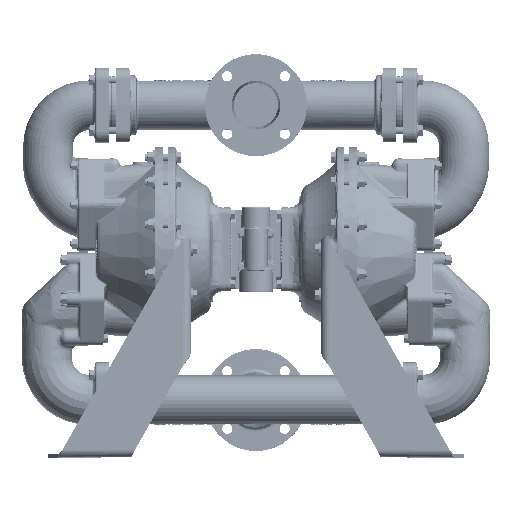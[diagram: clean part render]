
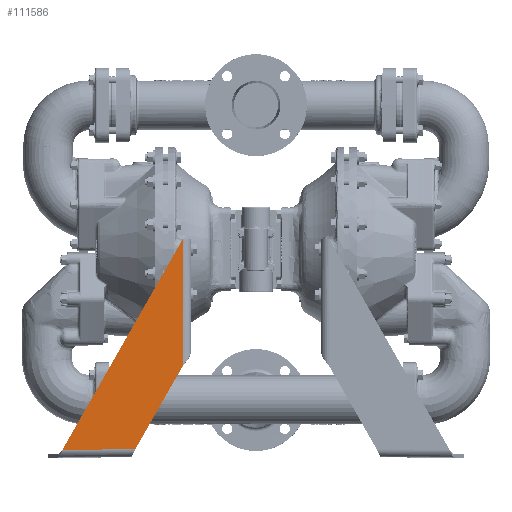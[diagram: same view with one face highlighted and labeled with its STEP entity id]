
A CAD part, top view. The second image highlights one B-rep face of the part: STEP entity #111586.
In plain terms, the highlighted planar face has unit normal (0, 0, 1).
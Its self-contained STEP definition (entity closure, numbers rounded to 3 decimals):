
#6896 = EDGE_CURVE ( 'NONE', #285897, #200924, #212812, .T. ) ;
#19207 = LINE ( 'NONE', #324046, #73141 ) ;
#22924 = CARTESIAN_POINT ( 'NONE',  ( -8.885, -14.703, 8.123 ) ) ;
#62573 = ORIENTED_EDGE ( 'NONE', *, *, #389751, .T. ) ;
#73141 = VECTOR ( 'NONE', #134163, 39.37 ) ;
#111586 = ADVANCED_FACE ( 'NONE', ( #457262 ), #112436, .T. ) ;
#112436 = PLANE ( 'NONE',  #412077 ) ;
#118084 = CARTESIAN_POINT ( 'NONE',  ( -5.376, -8.562, 8.123 ) ) ;
#125837 = EDGE_LOOP ( 'NONE', ( #464550, #219891, #309668, #62573 ) ) ;
#134163 = DIRECTION ( 'NONE',  ( 0., 1., 0. ) ) ;
#152397 = DIRECTION ( 'NONE',  ( 0.868, -0.496, 0. ) ) ;
#156948 = LINE ( 'NONE', #476568, #446456 ) ;
#171649 = CARTESIAN_POINT ( 'NONE',  ( -14.23, -14.744, 8.123 ) ) ;
#184223 = CARTESIAN_POINT ( 'NONE',  ( -14.23, -14.744, 8.123 ) ) ;
#194947 = DIRECTION ( 'NONE',  ( 1., 0.008, 0. ) ) ;
#200924 = VERTEX_POINT ( 'NONE', #118084 ) ;
#212812 = LINE ( 'NONE', #22924, #311487 ) ;
#219891 = ORIENTED_EDGE ( 'NONE', *, *, #293086, .T. ) ;
#247207 = VECTOR ( 'NONE', #194947, 39.37 ) ;
#254916 = CARTESIAN_POINT ( 'NONE',  ( -5.376, 0.75, 8.123 ) ) ;
#257486 = CARTESIAN_POINT ( 'NONE',  ( -15.274, -16.572, 8.123 ) ) ;
#285897 = VERTEX_POINT ( 'NONE', #319788 ) ;
#293086 = EDGE_CURVE ( 'NONE', #200924, #439769, #19207, .T. ) ;
#309668 = ORIENTED_EDGE ( 'NONE', *, *, #353104, .T. ) ;
#311487 = VECTOR ( 'NONE', #365261, 39.37 ) ;
#319788 = CARTESIAN_POINT ( 'NONE',  ( -8.885, -14.703, 8.123 ) ) ;
#324046 = CARTESIAN_POINT ( 'NONE',  ( -5.376, -8.562, 8.123 ) ) ;
#353104 = EDGE_CURVE ( 'NONE', #439769, #384658, #156948, .T. ) ;
#365261 = DIRECTION ( 'NONE',  ( 0.496, 0.868, 0. ) ) ;
#384658 = VERTEX_POINT ( 'NONE', #184223 ) ;
#389751 = EDGE_CURVE ( 'NONE', #384658, #285897, #474023, .T. ) ;
#412077 = AXIS2_PLACEMENT_3D ( 'NONE', #257486, #447416, #152397 ) ;
#439769 = VERTEX_POINT ( 'NONE', #254916 ) ;
#446456 = VECTOR ( 'NONE', #481479, 39.37 ) ;
#447416 = DIRECTION ( 'NONE',  ( 0., 0., 1. ) ) ;
#457262 = FACE_OUTER_BOUND ( 'NONE', #125837, .T. ) ;
#464550 = ORIENTED_EDGE ( 'NONE', *, *, #6896, .T. ) ;
#474023 = LINE ( 'NONE', #171649, #247207 ) ;
#476568 = CARTESIAN_POINT ( 'NONE',  ( -5.376, 0.75, 8.123 ) ) ;
#481479 = DIRECTION ( 'NONE',  ( -0.496, -0.868, 0. ) ) ;
